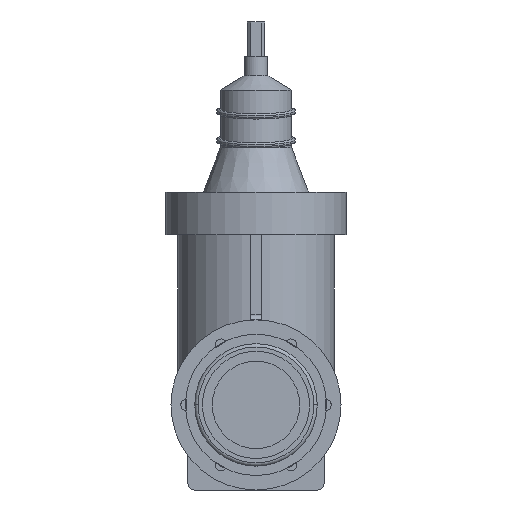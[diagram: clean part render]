
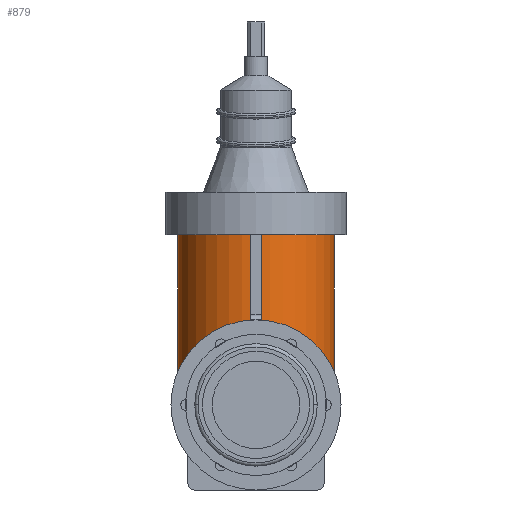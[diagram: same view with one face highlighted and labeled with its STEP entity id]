
A CAD part, left-side view. The second image highlights one B-rep face of the part: STEP entity #879.
In plain terms, the highlighted cylindrical face has radius 46 mm (diameter 92 mm), a partial arc.
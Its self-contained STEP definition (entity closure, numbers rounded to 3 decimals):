
#879=ADVANCED_FACE('',(#1583),#1584,.T.);
#1583=FACE_OUTER_BOUND('',#2354,.T.);
#1584=CYLINDRICAL_SURFACE('',#2355,46.0);
#2354=EDGE_LOOP('',(#3628,#3629,#3630,#3631));
#2355=AXIS2_PLACEMENT_3D('',#3632,#3633,#3634);
#3628=ORIENTED_EDGE('',*,*,#4195,.T.);
#3629=ORIENTED_EDGE('',*,*,#4373,.T.);
#3630=ORIENTED_EDGE('',*,*,#4197,.T.);
#3631=ORIENTED_EDGE('',*,*,#4215,.T.);
#3632=CARTESIAN_POINT('',(0.0,0.,12.0));
#3633=DIRECTION('',(0.0,0.,1.0));
#3634=DIRECTION('',(0.0,-1.0,0.));
#4195=EDGE_CURVE('',#4921,#4922,#4923,.T.);
#4197=EDGE_CURVE('',#4926,#4924,#4927,.T.);
#4215=EDGE_CURVE('',#4924,#4921,#4951,.T.);
#4373=EDGE_CURVE('',#4922,#4926,#5158,.T.);
#4921=VERTEX_POINT('',#5801);
#4922=VERTEX_POINT('',#5802);
#4923=LINE('',#5803,#5804);
#4924=VERTEX_POINT('',#5805);
#4926=VERTEX_POINT('',#5807);
#4927=LINE('',#5808,#5809);
#4951=CIRCLE('',#5841,46.0);
#5158=CIRCLE('',#6099,46.0);
#5801=CARTESIAN_POINT('',(0.0,-46.0,12.0));
#5802=CARTESIAN_POINT('',(0.0,-46.0,100.0));
#5803=CARTESIAN_POINT('',(0.,-46.0,12.0));
#5804=VECTOR('',#6646,1.0);
#5805=CARTESIAN_POINT('',(0.,46.0,12.0));
#5807=CARTESIAN_POINT('',(0.,46.0,100.0));
#5808=CARTESIAN_POINT('',(0.,46.0,12.0));
#5809=VECTOR('',#6650,1.0);
#5841=AXIS2_PLACEMENT_3D('',#6668,#6669,#6670);
#6099=AXIS2_PLACEMENT_3D('',#6857,#6858,#6859);
#6646=DIRECTION('',(0.0,0.,1.0));
#6650=DIRECTION('',(-0.0,0.,-1.0));
#6668=CARTESIAN_POINT('',(0.0,0.,12.0));
#6669=DIRECTION('',(0.0,0.,1.0));
#6670=DIRECTION('',(0.0,-1.0,0.));
#6857=CARTESIAN_POINT('',(0.0,0.,100.0));
#6858=DIRECTION('',(-0.0,0.,-1.0));
#6859=DIRECTION('',(0.0,-1.0,0.));
